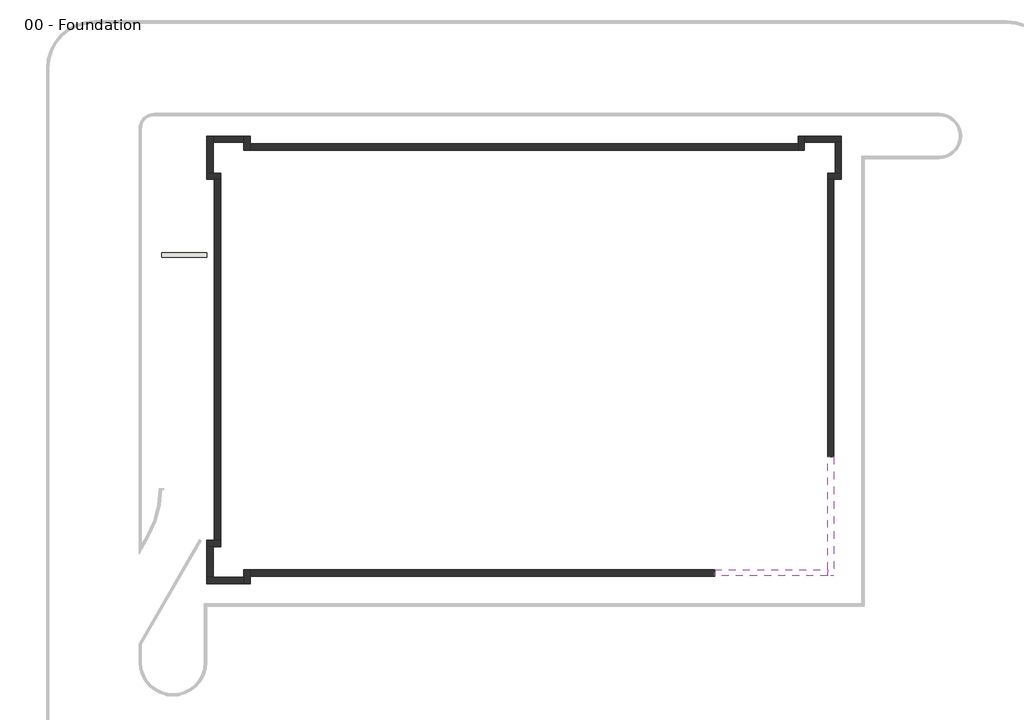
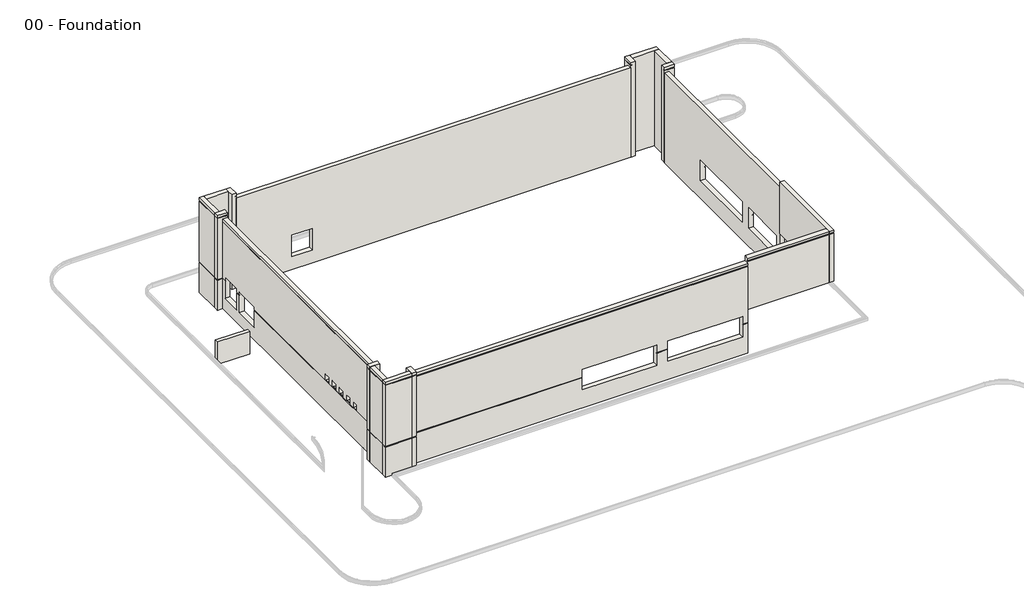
# One storey, part 1 of 2: 19 walls.
"""IFC4 building model written with IfcOpenShell, lengths in millimetres."""

from ifc_helpers import new_model, si_unit, frame, origin, place, context, project, spatial, polyline, outline, extrude, faceted_brep, element, save

model = new_model("IFC4")

# Units and contexts
model_context = context("Model", 3, world=origin())
ifc_project = project(units=[si_unit("LENGTHUNIT", "METRE", prefix="MILLI")], contexts=[model_context])

# Site, building, storey
site = spatial("IfcSite", under=ifc_project)
building = spatial("IfcBuilding", under=site)
storey = spatial("IfcBuildingStorey", under=building, Name="00 - Foundation", Elevation=-1250.0)

# Walls
placement = place(None, origin())
element("IfcWall", 1, ObjectType="Exterior - Render on Brick on Block @ Entry", at=placement, inside=storey, context=model_context, shape_type="Brep", body=[
    faceted_brep([(18351.5272279, -6481.9313057, 3000.0), (18351.5272279, -13977.9313057, 3000.0), (18351.5272279, -14406.9313057, 3000.0), (18351.5272279, -14406.9313057, 7700.0), (18351.5272279, -14331.9313057, 7700.0), (18351.5272279, -14331.9313057, 7775.0), (18351.5272279, -14406.9313057, 7775.0), (18351.5272279, -14406.9313057, 8000.0), (18351.5272279, -13977.9313057, 8000.0), (18351.5272279, -6481.9313057, 8000.0), (18351.5272279, -6481.9313057, 7500.0), (18780.5272279, -14406.9313057, 3000.0), (18780.5272279, -6481.9313057, 3000.0), (18780.5272279, -6481.9313057, 7200.0), (18780.5272279, -6481.9313057, 7275.0), (18780.5272279, -6481.9313057, 7500.0), (18780.5272279, -6481.9313057, 7700.0), (18780.5272279, -14406.9313057, 7700.0), (18780.5272279, -6481.9313057, 8000.0), (18780.5272279, -14406.9313057, 8000.0), (18780.5272279, -14406.9313057, 7775.0), (18780.5272279, -6481.9313057, 7775.0), (18705.5272279, -6481.9313057, 7775.0), (18705.5272279, -6481.9313057, 7700.0), (18705.5272279, -14331.9313057, 7775.0), (18705.5272279, -14331.9313057, 7700.0)], [[[0, 1, 2, 3, 4, 5, 6, 7, 8, 9, 10]], [[11, 12, 13, 14, 15, 16, 17]], [[18, 19, 20, 21]], [[2, 1, 0, 12, 11]], [[9, 8, 7, 19, 18]], [[0, 10, 9, 18, 21, 22, 23, 16, 15, 14, 13, 12]], [[24, 22, 21, 20, 6, 5]], [[23, 25, 4, 3, 17, 16]], [[22, 24, 25, 23]], [[2, 11, 17, 3]], [[19, 7, 6, 20]], [[25, 24, 5, 4]]]),
])
element("IfcWall", 2, ObjectType="Exterior - Render on Brick on Block @ Entry", at=placement, inside=storey, context=model_context, shape_type="Brep", body=[
    faceted_brep([(18351.5272279, -13977.9313057, 3000.0), (10855.5272279, -13977.9313057, 3000.0), (10855.5272279, -13977.9313057, 7500.0), (10855.5272279, -13977.9313057, 8000.0), (18351.5272279, -13977.9313057, 8000.0), (10855.5272279, -14406.9313057, 3000.0), (18351.5272279, -14406.9313057, 3000.0), (18351.5272279, -14406.9313057, 7700.0), (10855.5272279, -14406.9313057, 7700.0), (10855.5272279, -14406.9313057, 7500.0), (10855.5272279, -14406.9313057, 7275.0), (10855.5272279, -14406.9313057, 7200.0), (18351.5272279, -14406.9313057, 8000.0), (10855.5272279, -14406.9313057, 8000.0), (10855.5272279, -14406.9313057, 7775.0), (18351.5272279, -14406.9313057, 7775.0), (10855.5272279, -14331.9313057, 7700.0), (10855.5272279, -14331.9313057, 7775.0), (18351.5272279, -14331.9313057, 7700.0), (18351.5272279, -14331.9313057, 7775.0)], [[[0, 1, 2, 3, 4]], [[5, 6, 7, 8, 9, 10, 11]], [[12, 13, 14, 15]], [[1, 0, 6, 5]], [[3, 2, 1, 5, 11, 10, 9, 8, 16, 17, 14, 13]], [[4, 3, 13, 12]], [[16, 18, 19, 17]], [[0, 4, 12, 15, 19, 18, 7, 6]], [[17, 19, 15, 14]], [[18, 16, 8, 7]]]),
])
element("IfcWall", 3, ObjectType="Exterior - Render on Brick on Block", at=placement, inside=storey, context=model_context, shape_type="Brep", body=[
    faceted_brep([(10855.5272279, -13977.9313057, -1250.0), (-20031.4727721, -13977.9313057, -1250.0), (-20031.4727721, -13977.9313057, 7500.0), (10855.5272279, -13977.9313057, 7500.0), (10855.5272279, -13977.9313057, 3000.0), (3430.5272279, -13977.9313057, 2500.0), (3430.5272279, -13977.9313057, 500.0), (10355.5272279, -13977.9313057, 500.0), (10355.5272279, -13977.9313057, 2500.0), (2430.5272279, -13977.9313057, 500.0), (2430.5272279, -13977.9313057, 2500.0), (-4494.4727721, -13977.9313057, 2500.0), (-4494.4727721, -13977.9313057, 500.0), (10855.5272279, -14406.9313057, 7500.0), (-20031.4727721, -14406.9313057, 7500.0), (-20031.4727721, -14406.9313057, 7275.0), (10855.5272279, -14406.9313057, 7275.0), (-20031.4727721, -14406.9313057, -1250.0), (10855.5272279, -14406.9313057, -1250.0), (10855.5272279, -14406.9313057, 1675.0), (10355.5272279, -14406.9313057, 1675.0), (10355.5272279, -14406.9313057, 500.0), (3430.5272279, -14406.9313057, 500.0), (3430.5272279, -14406.9313057, 1675.0), (2430.5272279, -14406.9313057, 1675.0), (2430.5272279, -14406.9313057, 500.0), (-4494.4727721, -14406.9313057, 500.0), (-4494.4727721, -14406.9313057, 1675.0), (-20031.4727721, -14406.9313057, 1675.0), (-20031.4727721, -14406.9313057, 1750.0), (-4494.4727721, -14406.9313057, 1750.0), (-4494.4727721, -14406.9313057, 2500.0), (2430.5272279, -14406.9313057, 2500.0), (2430.5272279, -14406.9313057, 1750.0), (3430.5272279, -14406.9313057, 1750.0), (3430.5272279, -14406.9313057, 2500.0), (10355.5272279, -14406.9313057, 2500.0), (10355.5272279, -14406.9313057, 1750.0), (10855.5272279, -14406.9313057, 1750.0), (10855.5272279, -14406.9313057, 7200.0), (-20031.4727721, -14406.9313057, 7200.0), (10855.5272279, -14331.9313057, 7275.0), (10855.5272279, -14331.9313057, 7200.0), (10855.5272279, -14331.9313057, 1750.0), (10855.5272279, -14331.9313057, 1675.0), (10855.5272279, -14381.9313057, -1250.0), (-20031.4727721, -14381.9313057, -1250.0), (-20031.4727721, -14331.9313057, 1750.0), (-4494.4727721, -14331.9313057, 1750.0), (-4494.4727721, -14331.9313057, 1675.0), (-20031.4727721, -14331.9313057, 1675.0), (-20031.4727721, -14331.9313057, 7275.0), (-20031.4727721, -14331.9313057, 7200.0), (3430.5272279, -14331.9313057, 1750.0), (3430.5272279, -14331.9313057, 1675.0), (10355.5272279, -14331.9313057, 1675.0), (10355.5272279, -14331.9313057, 1750.0), (2430.5272279, -14331.9313057, 1750.0), (2430.5272279, -14331.9313057, 1675.0)], [[[0, 1, 2, 3, 4], [5, 6, 7, 8], [9, 10, 11, 12]], [[13, 14, 15, 16]], [[17, 18, 19, 20, 21, 22, 23, 24, 25, 26, 27, 28]], [[29, 30, 31, 32, 33, 34, 35, 36, 37, 38, 39, 40]], [[3, 2, 14, 13]], [[0, 4, 3, 13, 16, 41, 42, 39, 38, 43, 44, 19, 18, 45]], [[1, 0, 45, 46]], [[45, 18, 17, 46]], [[30, 29, 47, 48]], [[28, 27, 49, 50]], [[48, 47, 50, 49]], [[51, 41, 16, 15]], [[42, 52, 40, 39]], [[41, 51, 52, 42]], [[2, 1, 46, 17, 28, 50, 47, 29, 40, 52, 51, 15, 14]], [[22, 6, 5, 35, 34, 53, 54, 23]], [[35, 5, 8, 36]], [[36, 8, 7, 21, 20, 55, 56, 37]], [[6, 22, 21, 7]], [[57, 53, 34, 33]], [[54, 58, 24, 23]], [[53, 57, 58, 54]], [[9, 25, 24, 58, 57, 33, 32, 10]], [[10, 32, 31, 11]], [[11, 31, 30, 48, 49, 27, 26, 12]], [[25, 9, 12, 26]], [[56, 43, 38, 37]], [[44, 55, 20, 19]], [[43, 56, 55, 44]]]),
])
element("IfcWall", 4, ObjectType="Exterior - Render on Brick on Block", at=placement, inside=storey, context=model_context, shape_type="Brep", body=[
    faceted_brep([(-20460.4727721, -13977.9313057, -1250.0), (-20460.4727721, -14477.7313057, -1250.0), (-20460.4727721, -14906.7313057, -1250.0), (-20460.4727721, -14906.7313057, 1675.0), (-20460.4727721, -14831.7313057, 1675.0), (-20460.4727721, -14831.7313057, 1750.0), (-20460.4727721, -14906.7313057, 1750.0), (-20460.4727721, -14906.7313057, 7700.0), (-20460.4727721, -14831.7313057, 7700.0), (-20460.4727721, -14831.7313057, 7775.0), (-20460.4727721, -14906.7313057, 7775.0), (-20460.4727721, -14906.7313057, 8000.0), (-20460.4727721, -14477.7313057, 8000.0), (-20460.4727721, -13977.9313057, 8000.0), (-20031.4727721, -13977.9313057, 8000.0), (-20031.4727721, -14906.7313057, 8000.0), (-20031.4727721, -14906.7313057, 7775.0), (-20031.4727721, -13977.9313057, 7775.0), (-20031.4727721, -14906.7313057, -1250.0), (-20031.4727721, -14406.9313057, -1250.0), (-20031.4727721, -13977.9313057, -1250.0), (-20031.4727721, -13977.9313057, 7500.0), (-20031.4727721, -13977.9313057, 7700.0), (-20031.4727721, -14906.7313057, 7700.0), (-20031.4727721, -14906.7313057, 1750.0), (-20031.4727721, -14406.9313057, 1750.0), (-20031.4727721, -14331.9313057, 1750.0), (-20031.4727721, -14331.9313057, 1675.0), (-20031.4727721, -14406.9313057, 1675.0), (-20031.4727721, -14906.7313057, 1675.0), (-20056.4727721, -13977.9313057, -1250.0), (-20056.4727721, -14906.7313057, -1250.0), (-20106.4727721, -14331.9313057, 1675.0), (-20106.4727721, -14331.9313057, 1750.0), (-20106.4727721, -14831.7313057, 1750.0), (-20106.4727721, -14831.7313057, 1675.0), (-20106.4727721, -14831.7313057, 7775.0), (-20106.4727721, -13977.9313057, 7775.0), (-20106.4727721, -13977.9313057, 7700.0), (-20106.4727721, -14831.7313057, 7700.0)], [[[0, 1, 2, 3, 4, 5, 6, 7, 8, 9, 10, 11, 12, 13]], [[14, 15, 16, 17]], [[18, 19, 20, 21, 22, 23, 24, 25, 26, 27, 28, 29]], [[13, 12, 11, 15, 14]], [[2, 1, 0, 30, 31]], [[32, 33, 34, 35]], [[36, 37, 17, 16, 10, 9]], [[38, 39, 8, 7, 23, 22]], [[37, 36, 39, 38]], [[0, 13, 14, 17, 37, 38, 22, 21, 20, 30]], [[20, 19, 18, 31, 30]], [[34, 33, 26, 25, 24, 6, 5]], [[32, 35, 4, 3, 29, 28, 27]], [[33, 32, 27, 26]], [[15, 11, 10, 16]], [[2, 31, 18, 29, 3]], [[6, 24, 23, 7]], [[35, 34, 5, 4]], [[39, 36, 9, 8]]]),
])
element("IfcWall", 5, ObjectType="Exterior - Render on Brick on Block", at=placement, inside=storey, context=model_context, shape_type="Brep", body=[
    faceted_brep([(-20460.4727721, -14477.7313057, -1250.0), (-22490.4727721, -14477.7313057, -1250.0), (-22919.4727721, -14477.7313057, -1250.0), (-22919.4727721, -14477.7313057, 1675.0), (-22844.4727721, -14477.7313057, 1675.0), (-22844.4727721, -14477.7313057, 1750.0), (-22919.4727721, -14477.7313057, 1750.0), (-22919.4727721, -14477.7313057, 7700.0), (-22844.4727721, -14477.7313057, 7700.0), (-22844.4727721, -14477.7313057, 7775.0), (-22919.4727721, -14477.7313057, 7775.0), (-22919.4727721, -14477.7313057, 8000.0), (-22490.4727721, -14477.7313057, 8000.0), (-20460.4727721, -14477.7313057, 8000.0), (-20460.4727721, -14906.7313057, 8000.0), (-22919.4727721, -14906.7313057, 8000.0), (-22919.4727721, -14906.7313057, 7775.0), (-20460.4727721, -14906.7313057, 7775.0), (-22919.4727721, -14906.7313057, -1250.0), (-20460.4727721, -14906.7313057, -1250.0), (-20460.4727721, -14906.7313057, 1675.0), (-22919.4727721, -14906.7313057, 1675.0), (-22919.4727721, -14906.7313057, 1750.0), (-20460.4727721, -14906.7313057, 1750.0), (-20460.4727721, -14906.7313057, 7700.0), (-22919.4727721, -14906.7313057, 7700.0), (-20460.4727721, -14881.7313057, -1250.0), (-22919.4727721, -14881.7313057, -1250.0), (-22844.4727721, -14831.7313057, 1675.0), (-20460.4727721, -14831.7313057, 1675.0), (-20460.4727721, -14831.7313057, 1750.0), (-22844.4727721, -14831.7313057, 1750.0), (-22844.4727721, -14831.7313057, 7775.0), (-22844.4727721, -14831.7313057, 7700.0), (-20460.4727721, -14831.7313057, 7700.0), (-20460.4727721, -14831.7313057, 7775.0)], [[[0, 1, 2, 3, 4, 5, 6, 7, 8, 9, 10, 11, 12, 13]], [[14, 15, 16, 17]], [[18, 19, 20, 21]], [[22, 23, 24, 25]], [[13, 12, 11, 15, 14]], [[2, 1, 0, 26, 27]], [[28, 29, 30, 31]], [[32, 33, 34, 35]], [[0, 13, 14, 17, 35, 34, 24, 23, 30, 29, 20, 19, 26]], [[19, 18, 27, 26]], [[31, 30, 23, 22, 6, 5]], [[29, 28, 4, 3, 21, 20]], [[9, 32, 35, 17, 16, 10]], [[34, 33, 8, 7, 25, 24]], [[15, 11, 10, 16]], [[2, 27, 18, 21, 3]], [[6, 22, 25, 7]], [[28, 31, 5, 4]], [[33, 32, 9, 8]]]),
])
element("IfcWall", 6, ObjectType="Exterior - Render on Brick on Block", at=placement, inside=storey, context=model_context, shape_type="SweptSolid", body=[
    extrude(outline(polyline([(-1250.0, -22490.4727721), (8000.0, -22490.4727721), (8000.0, -22919.4727721), (7775.0, -22919.4727721), (7775.0, -22844.4727721), (7700.0, -22844.4727721), (7700.0, -22919.4727721), (1750.0, -22919.4727721), (1750.0, -22844.4727721), (1675.0, -22844.4727721), (1675.0, -22919.4727721), (-1250.0, -22919.4727721), (-1250.0, -22894.4727721), (-1250.0, -22490.4727721)])), frame((0.0, -14477.7313057, 0.0), z_axis=(0.0, 1.0, 0.0), x_axis=(0.0, 0.0, 1.0)), (0.0, 0.0, 1.0), 2030.0),
])
element("IfcWall", 7, ObjectType="Exterior - Render on Brick on Block", at=placement, inside=storey, context=model_context, shape_type="Brep", body=[
    faceted_brep([(-22919.4727721, -12447.7313057, -1250.0), (-22490.4727721, -12447.7313057, -1250.0), (-21990.4727721, -12447.7313057, -1250.0), (-21990.4727721, -12447.7313057, 8000.0), (-22490.4727721, -12447.7313057, 8000.0), (-22919.4727721, -12447.7313057, 8000.0), (-22919.4727721, -12447.7313057, 7775.0), (-22844.4727721, -12447.7313057, 7775.0), (-22844.4727721, -12447.7313057, 7700.0), (-22919.4727721, -12447.7313057, 7700.0), (-22919.4727721, -12447.7313057, 1750.0), (-22844.4727721, -12447.7313057, 1750.0), (-22844.4727721, -12447.7313057, 1675.0), (-22919.4727721, -12447.7313057, 1675.0), (-22919.4727721, -12018.7313057, 8000.0), (-21990.4727721, -12018.7313057, 8000.0), (-21990.4727721, -12018.7313057, 7775.0), (-22919.4727721, -12018.7313057, 7775.0), (-21990.4727721, -12018.7313057, -1250.0), (-22419.4727721, -12018.7313057, -1250.0), (-22919.4727721, -12018.7313057, -1250.0), (-22919.4727721, -12018.7313057, 1675.0), (-22419.4727721, -12018.7313057, 1675.0), (-22344.4727721, -12018.7313057, 1675.0), (-22344.4727721, -12018.7313057, 1750.0), (-22419.4727721, -12018.7313057, 1750.0), (-22919.4727721, -12018.7313057, 1750.0), (-22919.4727721, -12018.7313057, 7700.0), (-21990.4727721, -12018.7313057, 7700.0), (-21990.4727721, -12018.7313057, 7500.0), (-22919.4727721, -12043.7313057, -1250.0), (-21990.4727721, -12043.7313057, -1250.0), (-22844.4727721, -12093.7313057, 1675.0), (-22844.4727721, -12093.7313057, 1750.0), (-22344.4727721, -12093.7313057, 1750.0), (-22344.4727721, -12093.7313057, 1675.0), (-22844.4727721, -12093.7313057, 7775.0), (-21990.4727721, -12093.7313057, 7775.0), (-21990.4727721, -12093.7313057, 7700.0), (-22844.4727721, -12093.7313057, 7700.0)], [[[0, 1, 2, 3, 4, 5, 6, 7, 8, 9, 10, 11, 12, 13]], [[14, 15, 16, 17]], [[18, 19, 20, 21, 22, 23, 24, 25, 26, 27, 28, 29]], [[5, 4, 3, 15, 14]], [[2, 1, 0, 30, 31]], [[32, 33, 34, 35]], [[36, 37, 38, 39]], [[5, 14, 17, 6]], [[30, 0, 13, 21, 20]], [[26, 10, 9, 27]], [[20, 19, 18, 31, 30]], [[34, 33, 11, 10, 26, 25, 24]], [[32, 35, 23, 22, 21, 13, 12]], [[33, 32, 12, 11]], [[37, 36, 7, 6, 17, 16]], [[39, 38, 28, 27, 9, 8]], [[36, 39, 8, 7]], [[3, 2, 31, 18, 29, 28, 38, 37, 16, 15]], [[35, 34, 24, 23]]]),
])
element("IfcWall", 8, ObjectType="Exterior - Render on Brick on Block", at=placement, inside=storey, context=model_context, shape_type="Brep", body=[
    faceted_brep([(-21990.4727721, -12018.7313057, -1250.0), (-21990.4727721, 11955.0686943, -1250.0), (-21990.4727721, 11955.0686943, 7500.0), (-21990.4727721, -12018.7313057, 7500.0), (-21990.4727721, 9255.0686943, 2000.0), (-21990.4727721, 9255.0686943, 0.0), (-21990.4727721, 6855.0686943, 0.0), (-21990.4727721, 6855.0686943, 2000.0), (-21990.4727721, 9655.0686943, 2100.0), (-21990.4727721, 11555.0686943, 2100.0), (-21990.4727721, 11555.0686943, 0.0), (-21990.4727721, 9655.0686943, 0.0), (-21990.4727721, -9526.1813057, 1750.0), (-21990.4727721, -9526.1813057, 2360.0), (-21990.4727721, -8916.1813057, 2360.0), (-21990.4727721, -8916.1813057, 1750.0), (-21990.4727721, -8421.1813057, 1750.0), (-21990.4727721, -8421.1813057, 2360.0), (-21990.4727721, -7811.1813057, 2360.0), (-21990.4727721, -7811.1813057, 1750.0), (-21990.4727721, -7316.1813057, 1750.0), (-21990.4727721, -7316.1813057, 2360.0), (-21990.4727721, -6706.1813057, 2360.0), (-21990.4727721, -6706.1813057, 1750.0), (-21990.4727721, -6211.1813057, 1750.0), (-21990.4727721, -6211.1813057, 2360.0), (-21990.4727721, -5601.1813057, 2360.0), (-21990.4727721, -5601.1813057, 1750.0), (-21990.4727721, -5106.1813057, 1750.0), (-21990.4727721, -5106.1813057, 2360.0), (-21990.4727721, -4496.1813057, 2360.0), (-21990.4727721, -4496.1813057, 1750.0), (-22419.4727721, -12018.7313057, 7500.0), (-22419.4727721, 11955.0686943, 7500.0), (-22419.4727721, 11955.0686943, 7275.0), (-22419.4727721, -12018.7313057, 7275.0), (-22419.4727721, 11955.0686943, -1250.0), (-22419.4727721, -12018.7313057, -1250.0), (-22419.4727721, -12018.7313057, 1675.0), (-22419.4727721, 6855.0686943, 1675.0), (-22419.4727721, 6855.0686943, 0.0), (-22419.4727721, 9255.0686943, 0.0), (-22419.4727721, 9255.0686943, 1675.0), (-22419.4727721, 9655.0686943, 1675.0), (-22419.4727721, 9655.0686943, 0.0), (-22419.4727721, 11555.0686943, 0.0), (-22419.4727721, 11555.0686943, 1675.0), (-22419.4727721, 11955.0686943, 1675.0), (-22419.4727721, 11955.0686943, 1750.0), (-22419.4727721, 11555.0686943, 1750.0), (-22419.4727721, 11555.0686943, 2100.0), (-22419.4727721, 9655.0686943, 2100.0), (-22419.4727721, 9655.0686943, 1750.0), (-22419.4727721, 9255.0686943, 1750.0), (-22419.4727721, 9255.0686943, 2000.0), (-22419.4727721, 6855.0686943, 2000.0), (-22419.4727721, 6855.0686943, 1750.0), (-22419.4727721, -4496.1813057, 1750.0), (-22419.4727721, -4496.1813057, 2360.0), (-22419.4727721, -5106.1813057, 2360.0), (-22419.4727721, -5106.1813057, 1750.0), (-22419.4727721, -5601.1813057, 1750.0), (-22419.4727721, -5601.1813057, 2360.0), (-22419.4727721, -6211.1813057, 2360.0), (-22419.4727721, -6211.1813057, 1750.0), (-22419.4727721, -6706.1813057, 1750.0), (-22419.4727721, -6706.1813057, 2360.0), (-22419.4727721, -7316.1813057, 2360.0), (-22419.4727721, -7316.1813057, 1750.0), (-22419.4727721, -7811.1813057, 1750.0), (-22419.4727721, -7811.1813057, 2360.0), (-22419.4727721, -8421.1813057, 2360.0), (-22419.4727721, -8421.1813057, 1750.0), (-22419.4727721, -8916.1813057, 1750.0), (-22419.4727721, -8916.1813057, 2360.0), (-22419.4727721, -9526.1813057, 2360.0), (-22419.4727721, -9526.1813057, 1750.0), (-22419.4727721, -12018.7313057, 1750.0), (-22419.4727721, -12018.7313057, 7200.0), (-22419.4727721, 11955.0686943, 7200.0), (-22394.4727721, -12018.7313057, -1250.0), (-22394.4727721, 11955.0686943, -1250.0), (-22344.4727721, 11955.0686943, 1750.0), (-22344.4727721, 11555.0686943, 1750.0), (-22344.4727721, 11555.0686943, 1675.0), (-22344.4727721, 11955.0686943, 1675.0), (-22344.4727721, 11955.0686943, 7275.0), (-22344.4727721, -12018.7313057, 7275.0), (-22344.4727721, -12018.7313057, 7200.0), (-22344.4727721, 11955.0686943, 7200.0), (-22344.4727721, -12018.7313057, 1750.0), (-22344.4727721, -12018.7313057, 1675.0), (-22344.4727721, -9526.1813057, 1750.0), (-22344.4727721, 6855.0686943, 1750.0), (-22344.4727721, -4496.1813057, 1750.0), (-22344.4727721, -8916.1813057, 1750.0), (-22344.4727721, -8421.1813057, 1750.0), (-22344.4727721, -7811.1813057, 1750.0), (-22344.4727721, -7316.1813057, 1750.0), (-22344.4727721, -6706.1813057, 1750.0), (-22344.4727721, -6211.1813057, 1750.0), (-22344.4727721, -5601.1813057, 1750.0), (-22344.4727721, -5106.1813057, 1750.0), (-22344.4727721, 6855.0686943, 1675.0), (-22344.4727721, 9255.0686943, 1750.0), (-22344.4727721, 9255.0686943, 1675.0), (-22344.4727721, 9655.0686943, 1750.0), (-22344.4727721, 9655.0686943, 1675.0)], [[[0, 1, 2, 3], [4, 5, 6, 7], [8, 9, 10, 11], [12, 13, 14, 15], [16, 17, 18, 19], [20, 21, 22, 23], [24, 25, 26, 27], [28, 29, 30, 31]], [[32, 33, 34, 35]], [[36, 37, 38, 39, 40, 41, 42, 43, 44, 45, 46, 47]], [[48, 49, 50, 51, 52, 53, 54, 55, 56, 57, 58, 59, 60, 61, 62, 63, 64, 65, 66, 67, 68, 69, 70, 71, 72, 73, 74, 75, 76, 77, 78, 79]], [[3, 2, 33, 32]], [[1, 0, 80, 81]], [[49, 48, 82, 83]], [[47, 46, 84, 85]], [[85, 84, 83, 82]], [[86, 87, 35, 34]], [[88, 89, 79, 78]], [[87, 86, 89, 88]], [[0, 3, 32, 35, 87, 88, 78, 77, 90, 91, 38, 37, 80]], [[37, 36, 81, 80]], [[77, 76, 92, 90]], [[56, 93, 94, 57]], [[95, 73, 72, 96]], [[97, 69, 68, 98]], [[99, 65, 64, 100]], [[101, 61, 60, 102]], [[39, 38, 91, 103]], [[2, 1, 81, 36, 47, 85, 82, 48, 79, 89, 86, 34, 33]], [[5, 4, 54, 53, 104, 105, 42, 41]], [[55, 54, 4, 7]], [[7, 6, 40, 39, 103, 93, 56, 55]], [[41, 40, 6, 5]], [[104, 106, 107, 105]], [[106, 104, 53, 52]], [[105, 107, 43, 42]], [[8, 51, 50, 9]], [[51, 8, 11, 44, 43, 107, 106, 52]], [[44, 11, 10, 45]], [[9, 50, 49, 83, 84, 46, 45, 10]], [[103, 91, 90, 92, 95, 96, 97, 98, 99, 100, 101, 102, 94, 93]], [[13, 12, 92, 76, 75]], [[14, 13, 75, 74]], [[15, 14, 74, 73, 95]], [[12, 15, 95, 92]], [[17, 16, 96, 72, 71]], [[18, 17, 71, 70]], [[19, 18, 70, 69, 97]], [[16, 19, 97, 96]], [[21, 20, 98, 68, 67]], [[22, 21, 67, 66]], [[23, 22, 66, 65, 99]], [[20, 23, 99, 98]], [[25, 24, 100, 64, 63]], [[26, 25, 63, 62]], [[27, 26, 62, 61, 101]], [[24, 27, 101, 100]], [[29, 28, 102, 60, 59]], [[30, 29, 59, 58]], [[31, 30, 58, 57, 94]], [[28, 31, 94, 102]]]),
])
element("IfcWall", 9, ObjectType="Exterior - Render on Brick on Block", at=placement, inside=storey, context=model_context, shape_type="Brep", body=[
    faceted_brep([(-21990.4727721, 12384.0686943, -1250.0), (-22490.4727721, 12384.0686943, -1250.0), (-22919.4727721, 12384.0686943, -1250.0), (-22919.4727721, 12384.0686943, 1675.0), (-22844.4727721, 12384.0686943, 1675.0), (-22844.4727721, 12384.0686943, 1750.0), (-22919.4727721, 12384.0686943, 1750.0), (-22919.4727721, 12384.0686943, 7700.0), (-22844.4727721, 12384.0686943, 7700.0), (-22844.4727721, 12384.0686943, 7775.0), (-22919.4727721, 12384.0686943, 7775.0), (-22919.4727721, 12384.0686943, 8000.0), (-22490.4727721, 12384.0686943, 8000.0), (-21990.4727721, 12384.0686943, 8000.0), (-21990.4727721, 11955.0686943, 8000.0), (-22919.4727721, 11955.0686943, 8000.0), (-22919.4727721, 11955.0686943, 7775.0), (-21990.4727721, 11955.0686943, 7775.0), (-22919.4727721, 11955.0686943, -1250.0), (-22419.4727721, 11955.0686943, -1250.0), (-21990.4727721, 11955.0686943, -1250.0), (-21990.4727721, 11955.0686943, 7500.0), (-21990.4727721, 11955.0686943, 7700.0), (-22919.4727721, 11955.0686943, 7700.0), (-22919.4727721, 11955.0686943, 1750.0), (-22419.4727721, 11955.0686943, 1750.0), (-22344.4727721, 11955.0686943, 1750.0), (-22344.4727721, 11955.0686943, 1675.0), (-22419.4727721, 11955.0686943, 1675.0), (-22919.4727721, 11955.0686943, 1675.0), (-21990.4727721, 11980.0686943, -1250.0), (-22919.4727721, 11980.0686943, -1250.0), (-22344.4727721, 12030.0686943, 1675.0), (-22344.4727721, 12030.0686943, 1750.0), (-22844.4727721, 12030.0686943, 1750.0), (-22844.4727721, 12030.0686943, 1675.0), (-22844.4727721, 12030.0686943, 7775.0), (-21990.4727721, 12030.0686943, 7775.0), (-21990.4727721, 12030.0686943, 7700.0), (-22844.4727721, 12030.0686943, 7700.0)], [[[0, 1, 2, 3, 4, 5, 6, 7, 8, 9, 10, 11, 12, 13]], [[14, 15, 16, 17]], [[18, 19, 20, 21, 22, 23, 24, 25, 26, 27, 28, 29]], [[13, 12, 11, 15, 14]], [[2, 1, 0, 30, 31]], [[32, 33, 34, 35]], [[36, 37, 17, 16, 10, 9]], [[38, 39, 8, 7, 23, 22]], [[37, 36, 39, 38]], [[0, 13, 14, 17, 37, 38, 22, 21, 20, 30]], [[20, 19, 18, 31, 30]], [[34, 33, 26, 25, 24, 6, 5]], [[32, 35, 4, 3, 29, 28, 27]], [[33, 32, 27, 26]], [[15, 11, 10, 16]], [[2, 31, 18, 29, 3]], [[6, 24, 23, 7]], [[35, 34, 5, 4]], [[39, 36, 9, 8]]]),
])
element("IfcWall", 10, ObjectType="Exterior - Render on Brick on Block", at=placement, inside=storey, context=model_context, shape_type="Brep", body=[
    faceted_brep([(-22490.4727721, 12384.0686943, -1250.0), (-22490.4727721, 14414.0686943, -1250.0), (-22490.4727721, 14843.0686943, -1250.0), (-22490.4727721, 14843.0686943, 1675.0), (-22490.4727721, 14768.0686943, 1675.0), (-22490.4727721, 14768.0686943, 1750.0), (-22490.4727721, 14843.0686943, 1750.0), (-22490.4727721, 14843.0686943, 7700.0), (-22490.4727721, 14768.0686943, 7700.0), (-22490.4727721, 14768.0686943, 7775.0), (-22490.4727721, 14843.0686943, 7775.0), (-22490.4727721, 14843.0686943, 8000.0), (-22490.4727721, 14414.0686943, 8000.0), (-22490.4727721, 12384.0686943, 8000.0), (-22919.4727721, 12384.0686943, 8000.0), (-22919.4727721, 14843.0686943, 8000.0), (-22919.4727721, 14843.0686943, 7775.0), (-22919.4727721, 12384.0686943, 7775.0), (-22919.4727721, 14843.0686943, -1250.0), (-22919.4727721, 12384.0686943, -1250.0), (-22919.4727721, 12384.0686943, 1675.0), (-22919.4727721, 14843.0686943, 1675.0), (-22919.4727721, 14843.0686943, 1750.0), (-22919.4727721, 12384.0686943, 1750.0), (-22919.4727721, 12384.0686943, 7700.0), (-22919.4727721, 14843.0686943, 7700.0), (-22894.4727721, 12384.0686943, -1250.0), (-22894.4727721, 14843.0686943, -1250.0), (-22844.4727721, 14768.0686943, 1675.0), (-22844.4727721, 12384.0686943, 1675.0), (-22844.4727721, 12384.0686943, 1750.0), (-22844.4727721, 14768.0686943, 1750.0), (-22844.4727721, 14768.0686943, 7775.0), (-22844.4727721, 14768.0686943, 7700.0), (-22844.4727721, 12384.0686943, 7700.0), (-22844.4727721, 12384.0686943, 7775.0)], [[[0, 1, 2, 3, 4, 5, 6, 7, 8, 9, 10, 11, 12, 13]], [[14, 15, 16, 17]], [[18, 19, 20, 21]], [[22, 23, 24, 25]], [[13, 12, 11, 15, 14]], [[2, 1, 0, 26, 27]], [[28, 29, 30, 31]], [[32, 33, 34, 35]], [[0, 13, 14, 17, 35, 34, 24, 23, 30, 29, 20, 19, 26]], [[19, 18, 27, 26]], [[31, 30, 23, 22, 6, 5]], [[29, 28, 4, 3, 21, 20]], [[9, 32, 35, 17, 16, 10]], [[34, 33, 8, 7, 25, 24]], [[15, 11, 10, 16]], [[2, 27, 18, 21, 3]], [[6, 22, 25, 7]], [[28, 31, 5, 4]], [[33, 32, 9, 8]]]),
])
element("IfcWall", 11, ObjectType="Exterior - Render on Brick on Block", at=placement, inside=storey, context=model_context, shape_type="SweptSolid", body=[
    extrude(outline(polyline([(14414.0686943, -1250.0), (14414.0686943, 8000.0), (14843.0686943, 8000.0), (14843.0686943, 7775.0), (14768.0686943, 7775.0), (14768.0686943, 7700.0), (14843.0686943, 7700.0), (14843.0686943, 1750.0), (14768.0686943, 1750.0), (14768.0686943, 1675.0), (14843.0686943, 1675.0), (14843.0686943, -1250.0), (14818.0686943, -1250.0), (14414.0686943, -1250.0)])), frame((-22490.4727721, 0.0, 0.0), z_axis=(1.0, 0.0, 0.0), x_axis=(0.0, 1.0, 0.0)), (0.0, 0.0, 1.0), 2030.0),
])
element("IfcWall", 12, ObjectType="Exterior - Render on Brick on Block", at=placement, inside=storey, context=model_context, shape_type="Brep", body=[
    faceted_brep([(-20460.4727721, 14843.0686943, -1250.0), (-20460.4727721, 14414.0686943, -1250.0), (-20460.4727721, 13914.0686943, -1250.0), (-20460.4727721, 13914.0686943, 8000.0), (-20460.4727721, 14414.0686943, 8000.0), (-20460.4727721, 14843.0686943, 8000.0), (-20460.4727721, 14843.0686943, 7775.0), (-20460.4727721, 14768.0686943, 7775.0), (-20460.4727721, 14768.0686943, 7700.0), (-20460.4727721, 14843.0686943, 7700.0), (-20460.4727721, 14843.0686943, 1750.0), (-20460.4727721, 14768.0686943, 1750.0), (-20460.4727721, 14768.0686943, 1675.0), (-20460.4727721, 14843.0686943, 1675.0), (-20031.4727721, 14843.0686943, 8000.0), (-20031.4727721, 13914.0686943, 8000.0), (-20031.4727721, 13914.0686943, 7775.0), (-20031.4727721, 14843.0686943, 7775.0), (-20031.4727721, 13914.0686943, -1250.0), (-20031.4727721, 14343.0686943, -1250.0), (-20031.4727721, 14843.0686943, -1250.0), (-20031.4727721, 14843.0686943, 1675.0), (-20031.4727721, 14343.0686943, 1675.0), (-20031.4727721, 14268.0686943, 1675.0), (-20031.4727721, 14268.0686943, 1750.0), (-20031.4727721, 14343.0686943, 1750.0), (-20031.4727721, 14843.0686943, 1750.0), (-20031.4727721, 14843.0686943, 7700.0), (-20031.4727721, 13914.0686943, 7700.0), (-20031.4727721, 13914.0686943, 7500.0), (-20056.4727721, 14843.0686943, -1250.0), (-20056.4727721, 13914.0686943, -1250.0), (-20106.4727721, 14768.0686943, 1675.0), (-20106.4727721, 14768.0686943, 1750.0), (-20106.4727721, 14268.0686943, 1750.0), (-20106.4727721, 14268.0686943, 1675.0), (-20106.4727721, 14768.0686943, 7775.0), (-20106.4727721, 13914.0686943, 7775.0), (-20106.4727721, 13914.0686943, 7700.0), (-20106.4727721, 14768.0686943, 7700.0)], [[[0, 1, 2, 3, 4, 5, 6, 7, 8, 9, 10, 11, 12, 13]], [[14, 15, 16, 17]], [[18, 19, 20, 21, 22, 23, 24, 25, 26, 27, 28, 29]], [[5, 4, 3, 15, 14]], [[2, 1, 0, 30, 31]], [[32, 33, 34, 35]], [[36, 37, 38, 39]], [[5, 14, 17, 6]], [[30, 0, 13, 21, 20]], [[26, 10, 9, 27]], [[20, 19, 18, 31, 30]], [[34, 33, 11, 10, 26, 25, 24]], [[32, 35, 23, 22, 21, 13, 12]], [[33, 32, 12, 11]], [[37, 36, 7, 6, 17, 16]], [[39, 38, 28, 27, 9, 8]], [[36, 39, 8, 7]], [[3, 2, 31, 18, 29, 28, 38, 37, 16, 15]], [[35, 34, 24, 23]]]),
])
element("IfcWall", 13, ObjectType="Exterior - Render on Brick on Block", at=placement, inside=storey, context=model_context, shape_type="Brep", body=[
    faceted_brep([(-20031.4727721, 13914.0686943, -1250.0), (16392.5272279, 13914.0686943, -1250.0), (16392.5272279, 13914.0686943, 7500.0), (-20031.4727721, 13914.0686943, 7500.0), (-14912.4227721, 13914.0686943, 0.0), (-14912.4227721, 13914.0686943, 2100.0), (-13012.4227721, 13914.0686943, 2100.0), (-13012.4227721, 13914.0686943, 0.0), (-20031.4727721, 14343.0686943, 7500.0), (16392.5272279, 14343.0686943, 7500.0), (16392.5272279, 14343.0686943, 7275.0), (-20031.4727721, 14343.0686943, 7275.0), (16392.5272279, 14343.0686943, -1250.0), (-20031.4727721, 14343.0686943, -1250.0), (-20031.4727721, 14343.0686943, 1675.0), (-14912.4227721, 14343.0686943, 1675.0), (-14912.4227721, 14343.0686943, 0.0), (-13012.4227721, 14343.0686943, 0.0), (-13012.4227721, 14343.0686943, 1675.0), (16392.5272279, 14343.0686943, 1675.0), (16392.5272279, 14343.0686943, 1750.0), (-13012.4227721, 14343.0686943, 1750.0), (-13012.4227721, 14343.0686943, 2100.0), (-14912.4227721, 14343.0686943, 2100.0), (-14912.4227721, 14343.0686943, 1750.0), (-20031.4727721, 14343.0686943, 1750.0), (-20031.4727721, 14343.0686943, 7200.0), (16392.5272279, 14343.0686943, 7200.0), (-20031.4727721, 14318.0686943, -1250.0), (16392.5272279, 14318.0686943, -1250.0), (16392.5272279, 14268.0686943, 1750.0), (-13012.4227721, 14268.0686943, 1750.0), (-13012.4227721, 14268.0686943, 1675.0), (16392.5272279, 14268.0686943, 1675.0), (16392.5272279, 14268.0686943, 7275.0), (-20031.4727721, 14268.0686943, 7275.0), (-20031.4727721, 14268.0686943, 7200.0), (16392.5272279, 14268.0686943, 7200.0), (-20031.4727721, 14268.0686943, 1750.0), (-20031.4727721, 14268.0686943, 1675.0), (-14912.4227721, 14268.0686943, 1750.0), (-14912.4227721, 14268.0686943, 1675.0)], [[[0, 1, 2, 3], [4, 5, 6, 7]], [[8, 9, 10, 11]], [[12, 13, 14, 15, 16, 17, 18, 19]], [[20, 21, 22, 23, 24, 25, 26, 27]], [[3, 2, 9, 8]], [[1, 0, 28, 29]], [[21, 20, 30, 31]], [[19, 18, 32, 33]], [[33, 32, 31, 30]], [[34, 35, 11, 10]], [[36, 37, 27, 26]], [[35, 34, 37, 36]], [[0, 3, 8, 11, 35, 36, 26, 25, 38, 39, 14, 13, 28]], [[13, 12, 29, 28]], [[25, 24, 40, 38]], [[15, 14, 39, 41]], [[2, 1, 29, 12, 19, 33, 30, 20, 27, 37, 34, 10, 9]], [[5, 4, 16, 15, 41, 40, 24, 23]], [[6, 5, 23, 22]], [[7, 6, 22, 21, 31, 32, 18, 17]], [[4, 7, 17, 16]], [[38, 40, 41, 39]]]),
])
element("IfcWall", 14, ObjectType="Exterior - Render on Brick on Block", at=placement, inside=storey, context=model_context, shape_type="Brep", body=[
    faceted_brep([(16821.5272279, 13914.0686943, -1250.0), (16821.5272279, 14414.0686943, -1250.0), (16821.5272279, 14843.0686943, -1250.0), (16821.5272279, 14843.0686943, 1675.0), (16821.5272279, 14768.0686943, 1675.0), (16821.5272279, 14768.0686943, 1750.0), (16821.5272279, 14843.0686943, 1750.0), (16821.5272279, 14843.0686943, 7700.0), (16821.5272279, 14768.0686943, 7700.0), (16821.5272279, 14768.0686943, 7775.0), (16821.5272279, 14843.0686943, 7775.0), (16821.5272279, 14843.0686943, 8000.0), (16821.5272279, 14414.0686943, 8000.0), (16821.5272279, 13914.0686943, 8000.0), (16392.5272279, 13914.0686943, 8000.0), (16392.5272279, 14843.0686943, 8000.0), (16392.5272279, 14843.0686943, 7775.0), (16392.5272279, 13914.0686943, 7775.0), (16392.5272279, 14843.0686943, -1250.0), (16392.5272279, 14343.0686943, -1250.0), (16392.5272279, 13914.0686943, -1250.0), (16392.5272279, 13914.0686943, 7500.0), (16392.5272279, 13914.0686943, 7700.0), (16392.5272279, 14843.0686943, 7700.0), (16392.5272279, 14843.0686943, 1750.0), (16392.5272279, 14343.0686943, 1750.0), (16392.5272279, 14268.0686943, 1750.0), (16392.5272279, 14268.0686943, 1675.0), (16392.5272279, 14343.0686943, 1675.0), (16392.5272279, 14843.0686943, 1675.0), (16417.5272279, 13914.0686943, -1250.0), (16417.5272279, 14843.0686943, -1250.0), (16467.5272279, 14268.0686943, 1675.0), (16467.5272279, 14268.0686943, 1750.0), (16467.5272279, 14768.0686943, 1750.0), (16467.5272279, 14768.0686943, 1675.0), (16467.5272279, 14768.0686943, 7775.0), (16467.5272279, 13914.0686943, 7775.0), (16467.5272279, 13914.0686943, 7700.0), (16467.5272279, 14768.0686943, 7700.0)], [[[0, 1, 2, 3, 4, 5, 6, 7, 8, 9, 10, 11, 12, 13]], [[14, 15, 16, 17]], [[18, 19, 20, 21, 22, 23, 24, 25, 26, 27, 28, 29]], [[13, 12, 11, 15, 14]], [[2, 1, 0, 30, 31]], [[32, 33, 34, 35]], [[36, 37, 17, 16, 10, 9]], [[38, 39, 8, 7, 23, 22]], [[37, 36, 39, 38]], [[0, 13, 14, 17, 37, 38, 22, 21, 20, 30]], [[20, 19, 18, 31, 30]], [[34, 33, 26, 25, 24, 6, 5]], [[32, 35, 4, 3, 29, 28, 27]], [[33, 32, 27, 26]], [[15, 11, 10, 16]], [[2, 31, 18, 29, 3]], [[6, 24, 23, 7]], [[35, 34, 5, 4]], [[39, 36, 9, 8]]]),
])
element("IfcWall", 15, ObjectType="Exterior - Render on Brick on Block", at=placement, inside=storey, context=model_context, shape_type="Brep", body=[
    faceted_brep([(16821.5272279, 14414.0686943, -1250.0), (18851.5272279, 14414.0686943, -1250.0), (19280.5272279, 14414.0686943, -1250.0), (19280.5272279, 14414.0686943, 1675.0), (19205.5272279, 14414.0686943, 1675.0), (19205.5272279, 14414.0686943, 1750.0), (19280.5272279, 14414.0686943, 1750.0), (19280.5272279, 14414.0686943, 7700.0), (19205.5272279, 14414.0686943, 7700.0), (19205.5272279, 14414.0686943, 7775.0), (19280.5272279, 14414.0686943, 7775.0), (19280.5272279, 14414.0686943, 8000.0), (18851.5272279, 14414.0686943, 8000.0), (16821.5272279, 14414.0686943, 8000.0), (16821.5272279, 14843.0686943, 8000.0), (19280.5272279, 14843.0686943, 8000.0), (19280.5272279, 14843.0686943, 7775.0), (16821.5272279, 14843.0686943, 7775.0), (19280.5272279, 14843.0686943, -1250.0), (16821.5272279, 14843.0686943, -1250.0), (16821.5272279, 14843.0686943, 1675.0), (19280.5272279, 14843.0686943, 1675.0), (19280.5272279, 14843.0686943, 1750.0), (16821.5272279, 14843.0686943, 1750.0), (16821.5272279, 14843.0686943, 7700.0), (19280.5272279, 14843.0686943, 7700.0), (16821.5272279, 14818.0686943, -1250.0), (19280.5272279, 14818.0686943, -1250.0), (19205.5272279, 14768.0686943, 1675.0), (16821.5272279, 14768.0686943, 1675.0), (16821.5272279, 14768.0686943, 1750.0), (19205.5272279, 14768.0686943, 1750.0), (19205.5272279, 14768.0686943, 7775.0), (19205.5272279, 14768.0686943, 7700.0), (16821.5272279, 14768.0686943, 7700.0), (16821.5272279, 14768.0686943, 7775.0)], [[[0, 1, 2, 3, 4, 5, 6, 7, 8, 9, 10, 11, 12, 13]], [[14, 15, 16, 17]], [[18, 19, 20, 21]], [[22, 23, 24, 25]], [[13, 12, 11, 15, 14]], [[2, 1, 0, 26, 27]], [[28, 29, 30, 31]], [[32, 33, 34, 35]], [[0, 13, 14, 17, 35, 34, 24, 23, 30, 29, 20, 19, 26]], [[19, 18, 27, 26]], [[31, 30, 23, 22, 6, 5]], [[29, 28, 4, 3, 21, 20]], [[9, 32, 35, 17, 16, 10]], [[34, 33, 8, 7, 25, 24]], [[15, 11, 10, 16]], [[2, 27, 18, 21, 3]], [[6, 22, 25, 7]], [[28, 31, 5, 4]], [[33, 32, 9, 8]]]),
])
element("IfcWall", 16, ObjectType="Exterior - Render on Brick on Block", at=placement, inside=storey, context=model_context, shape_type="SweptSolid", body=[
    extrude(outline(polyline([(8000.0, 18851.5272279), (-1250.0, 18851.5272279), (-1250.0, 19255.5272279), (-1250.0, 19280.5272279), (1675.0, 19280.5272279), (1675.0, 19205.5272279), (1750.0, 19205.5272279), (1750.0, 19280.5272279), (7700.0, 19280.5272279), (7700.0, 19205.5272279), (7775.0, 19205.5272279), (7775.0, 19280.5272279), (8000.0, 19280.5272279), (8000.0, 18851.5272279)])), frame((0.0, 12384.0686943, 0.0), z_axis=(0.0, 1.0, 0.0), x_axis=(0.0, 0.0, 1.0)), (0.0, 0.0, 1.0), 2030.0),
])
element("IfcWall", 17, ObjectType="Exterior - Render on Brick on Block", at=placement, inside=storey, context=model_context, shape_type="Brep", body=[
    faceted_brep([(19280.5272279, 12384.0686943, -1250.0), (18851.5272279, 12384.0686943, -1250.0), (18351.5272279, 12384.0686943, -1250.0), (18351.5272279, 12384.0686943, 8000.0), (18851.5272279, 12384.0686943, 8000.0), (19280.5272279, 12384.0686943, 8000.0), (19280.5272279, 12384.0686943, 7775.0), (19205.5272279, 12384.0686943, 7775.0), (19205.5272279, 12384.0686943, 7700.0), (19280.5272279, 12384.0686943, 7700.0), (19280.5272279, 12384.0686943, 1750.0), (19205.5272279, 12384.0686943, 1750.0), (19205.5272279, 12384.0686943, 1675.0), (19280.5272279, 12384.0686943, 1675.0), (19280.5272279, 11955.0686943, 8000.0), (18351.5272279, 11955.0686943, 8000.0), (18351.5272279, 11955.0686943, 7775.0), (19280.5272279, 11955.0686943, 7775.0), (18351.5272279, 11955.0686943, -1250.0), (18780.5272279, 11955.0686943, -1250.0), (19280.5272279, 11955.0686943, -1250.0), (19280.5272279, 11955.0686943, 1675.0), (18780.5272279, 11955.0686943, 1675.0), (18705.5272279, 11955.0686943, 1675.0), (18705.5272279, 11955.0686943, 1750.0), (18780.5272279, 11955.0686943, 1750.0), (19280.5272279, 11955.0686943, 1750.0), (19280.5272279, 11955.0686943, 7700.0), (18351.5272279, 11955.0686943, 7700.0), (18351.5272279, 11955.0686943, 7500.0), (19280.5272279, 11980.0686943, -1250.0), (18351.5272279, 11980.0686943, -1250.0), (19205.5272279, 12030.0686943, 1675.0), (19205.5272279, 12030.0686943, 1750.0), (18705.5272279, 12030.0686943, 1750.0), (18705.5272279, 12030.0686943, 1675.0), (19205.5272279, 12030.0686943, 7775.0), (18351.5272279, 12030.0686943, 7775.0), (18351.5272279, 12030.0686943, 7700.0), (19205.5272279, 12030.0686943, 7700.0)], [[[0, 1, 2, 3, 4, 5, 6, 7, 8, 9, 10, 11, 12, 13]], [[14, 15, 16, 17]], [[18, 19, 20, 21, 22, 23, 24, 25, 26, 27, 28, 29]], [[5, 4, 3, 15, 14]], [[2, 1, 0, 30, 31]], [[32, 33, 34, 35]], [[36, 37, 38, 39]], [[5, 14, 17, 6]], [[30, 0, 13, 21, 20]], [[26, 10, 9, 27]], [[20, 19, 18, 31, 30]], [[34, 33, 11, 10, 26, 25, 24]], [[32, 35, 23, 22, 21, 13, 12]], [[33, 32, 12, 11]], [[37, 36, 7, 6, 17, 16]], [[39, 38, 28, 27, 9, 8]], [[36, 39, 8, 7]], [[3, 2, 31, 18, 29, 28, 38, 37, 16, 15]], [[35, 34, 24, 23]]]),
])
element("IfcWall", 18, ObjectType="Exterior - Render on Brick on Block", at=placement, inside=storey, context=model_context, shape_type="Brep", body=[
    faceted_brep([(18351.5272279, 11955.0686943, -1250.0), (18351.5272279, -6481.9313057, -1250.0), (18351.5272279, -6481.9313057, 3000.0), (18351.5272279, -6481.9313057, 7500.0), (18351.5272279, 11955.0686943, 7500.0), (18351.5272279, -5981.9313057, 2500.0), (18351.5272279, -5981.9313057, 500.0), (18351.5272279, -1523.5979723, 500.0), (18351.5272279, -1523.5979723, 2500.0), (18351.5272279, -523.5979723, 2500.0), (18351.5272279, -523.5979723, 500.0), (18351.5272279, 6159.735361, 500.0), (18351.5272279, 6159.735361, 2500.0), (18780.5272279, 11955.0686943, 7500.0), (18780.5272279, -6481.9313057, 7500.0), (18780.5272279, -6481.9313057, 7275.0), (18780.5272279, 11955.0686943, 7275.0), (18780.5272279, -6481.9313057, -1250.0), (18780.5272279, 11955.0686943, -1250.0), (18780.5272279, 11955.0686943, 1675.0), (18780.5272279, 6159.735361, 1675.0), (18780.5272279, 6159.735361, 500.0), (18780.5272279, -523.5979723, 500.0), (18780.5272279, -523.5979723, 1675.0), (18780.5272279, -1523.5979723, 1675.0), (18780.5272279, -1523.5979723, 500.0), (18780.5272279, -5981.9313057, 500.0), (18780.5272279, -5981.9313057, 1675.0), (18780.5272279, -6481.9313057, 1675.0), (18780.5272279, -6481.9313057, 1750.0), (18780.5272279, -5981.9313057, 1750.0), (18780.5272279, -5981.9313057, 2500.0), (18780.5272279, -1523.5979723, 2500.0), (18780.5272279, -1523.5979723, 1750.0), (18780.5272279, -523.5979723, 1750.0), (18780.5272279, -523.5979723, 2500.0), (18780.5272279, 6159.735361, 2500.0), (18780.5272279, 6159.735361, 1750.0), (18780.5272279, 11955.0686943, 1750.0), (18780.5272279, 11955.0686943, 7200.0), (18780.5272279, -6481.9313057, 7200.0), (18755.5272279, -6481.9313057, -1250.0), (18705.5272279, -6481.9313057, 1675.0), (18705.5272279, -6481.9313057, 1750.0), (18705.5272279, -6481.9313057, 7200.0), (18705.5272279, -6481.9313057, 7275.0), (18755.5272279, 11955.0686943, -1250.0), (18705.5272279, -5981.9313057, 1750.0), (18705.5272279, -5981.9313057, 1675.0), (18705.5272279, 11955.0686943, 7275.0), (18705.5272279, 11955.0686943, 7200.0), (18705.5272279, 11955.0686943, 1750.0), (18705.5272279, 11955.0686943, 1675.0), (18705.5272279, 6159.735361, 1750.0), (18705.5272279, 6159.735361, 1675.0), (18705.5272279, -1523.5979723, 1675.0), (18705.5272279, -1523.5979723, 1750.0), (18705.5272279, -523.5979723, 1750.0), (18705.5272279, -523.5979723, 1675.0)], [[[0, 1, 2, 3, 4], [5, 6, 7, 8], [9, 10, 11, 12]], [[13, 14, 15, 16]], [[17, 18, 19, 20, 21, 22, 23, 24, 25, 26, 27, 28]], [[29, 30, 31, 32, 33, 34, 35, 36, 37, 38, 39, 40]], [[3, 2, 1, 41, 17, 28, 42, 43, 29, 40, 44, 45, 15, 14]], [[4, 3, 14, 13]], [[1, 0, 46, 41]], [[43, 47, 30, 29]], [[48, 42, 28, 27]], [[47, 43, 42, 48]], [[45, 49, 16, 15]], [[50, 44, 40, 39]], [[49, 45, 44, 50]], [[0, 4, 13, 16, 49, 50, 39, 38, 51, 52, 19, 18, 46]], [[18, 17, 41, 46]], [[38, 37, 53, 51]], [[20, 19, 52, 54]], [[26, 6, 5, 31, 30, 47, 48, 27]], [[31, 5, 8, 32]], [[32, 8, 7, 25, 24, 55, 56, 33]], [[6, 26, 25, 7]], [[57, 56, 55, 58]], [[22, 10, 9, 35, 34, 57, 58, 23]], [[35, 9, 12, 36]], [[36, 12, 11, 21, 20, 54, 53, 37]], [[10, 22, 21, 11]], [[51, 53, 54, 52]], [[56, 57, 34, 33]], [[58, 55, 24, 23]]]),
])
element("IfcWall", 19, ObjectType="Foundation - 300mm Concrete", at=placement, inside=storey, context=model_context, shape_type="SweptSolid", body=[
    extrude(outline(polyline([(-25919.4727721, 7072.0686943), (-22919.4727721, 7072.0686943), (-22919.4727721, 6772.0686943), (-25919.4727721, 6772.0686943), (-25919.4727721, 7072.0686943)])), frame((0.0, 0.0, -2350.0), z_axis=(0.0, 0.0, 1.0), x_axis=(1.0, 0.0, 0.0)), (0.0, 0.0, 1.0), 2200.0),
])

save(model, "model.ifc")
